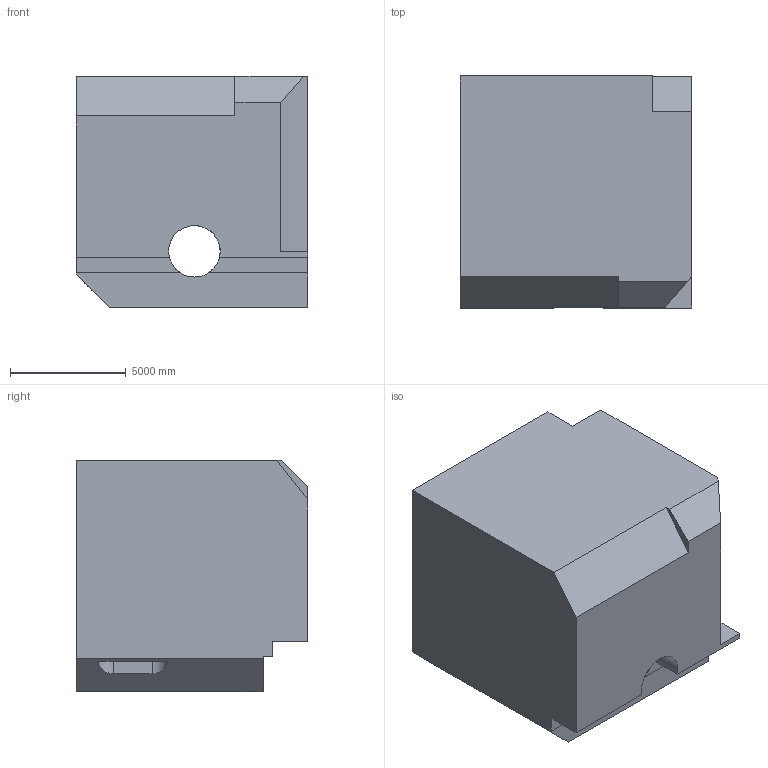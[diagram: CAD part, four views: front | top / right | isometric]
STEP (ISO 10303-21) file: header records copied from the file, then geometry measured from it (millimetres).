
FILE_DESCRIPTION (( 'STEP AP203' ), '1' );
FILE_NAME ('1965.STEP', '2022-08-23T10:03:09', ( 'user' ), ( '' ), 'SwSTEP 2.0', 'SolidWorks 2021', '' );
FILE_SCHEMA (( 'CONFIG_CONTROL_DESIGN' ));
Length unit declared in the file: centimetre
Products named in the file (1): 1965
Bounding box: 10000 x 10000 x 10000 mm (x, y, z)
Volume: 895969449311.5 mm3; surface area: 632666264.8 mm2
Topology: 1 solids, 1 shells, 31 faces, 84 edges, 56 vertices
Faces by surface type: plane 27, cylinder 4
Entity records: 1049 total; most frequent: CARTESIAN_POINT 178, ORIENTED_EDGE 168, DIRECTION 156, EDGE_CURVE 84, VECTOR 72, LINE 72, VERTEX_POINT 56, AXIS2_PLACEMENT_3D 42
